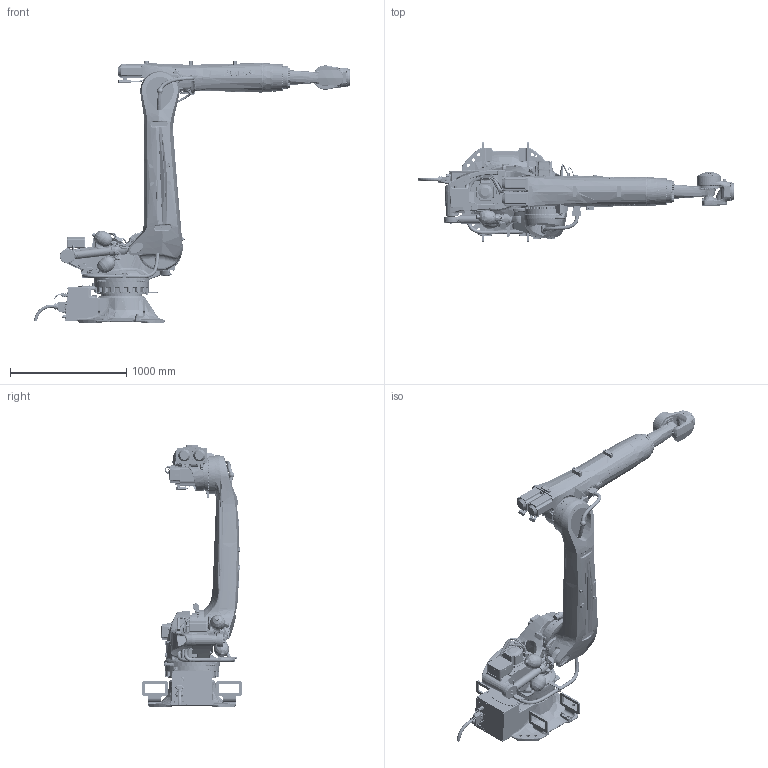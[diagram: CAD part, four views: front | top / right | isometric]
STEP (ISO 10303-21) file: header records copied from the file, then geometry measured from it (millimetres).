
FILE_DESCRIPTION(/* description */ (''),/* implementation_level */ '2;1');
FILE_NAME(/* name */ 'KR_150_R3100-2_V00.stp',/* time_stamp */ '2018-12-06T18:14:43+01:00',/* author */ (''),/* organization */ (''),/* preprocessor_version */ 'ST-DEVELOPER v15',/* originating_system */ 'SIEMENS PLM Software NX 9.0',/* authorisation */ '');
FILE_SCHEMA (('AUTOMOTIVE_DESIGN { 1 0 10303 214 3 1 1 1 }'));
Products named in the file (1): Pfen071C69B5b3jg
Bounding box: 2718.75 x 862 x 2253 mm (x, y, z)
Volume: 214498470.3 mm3; surface area: 10578077.9 mm2
Topology: 70 solids, 110 shells, 10540 faces, 25874 edges, 16082 vertices
Faces by surface type: plane 3218, bspline 2667, cylinder 2254, torus 1413, cone 764, extrusion 127, sphere 93, revolution 4
Full cylindrical faces by diameter (mm): 2 x1, 3.7 x2, 4 x3, 4.3 x2, 4.8 x2, 5 x11, 5.3 x4, 5.4 x1, 5.5 x10, 6 x39, 6.1 x1, 6.4 x20, 6.5 x1, 6.6 x10, 6.8 x8, 7 x9, 8 x52, 8.4 x19, 8.5 x14, 8.7 x2, 8.9 x1, 9 x14, 9.5 x2, 9.8 x4, 10 x70, 10.3 x2, 11 x3, 12 x29, 12.5 x2, 13 x57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
Entity records: 461035 total; most frequent: CARTESIAN_POINT 217026, ORIENTED_EDGE 46966, DIRECTION 37768, EDGE_CURVE 23483, AXIS2_PLACEMENT_3D 15799, VERTEX_POINT 15476, EDGE_LOOP 13088, ADVANCED_FACE 10538
